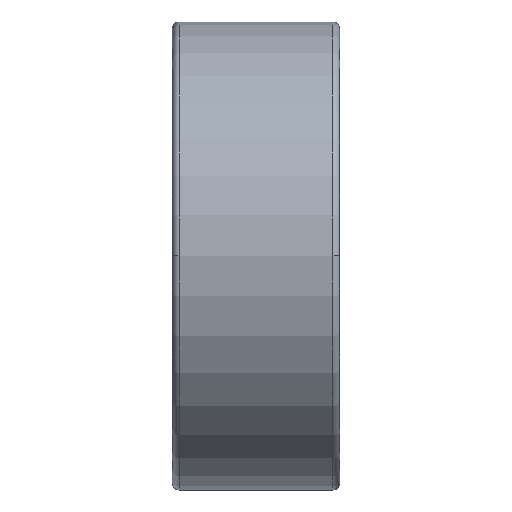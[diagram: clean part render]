
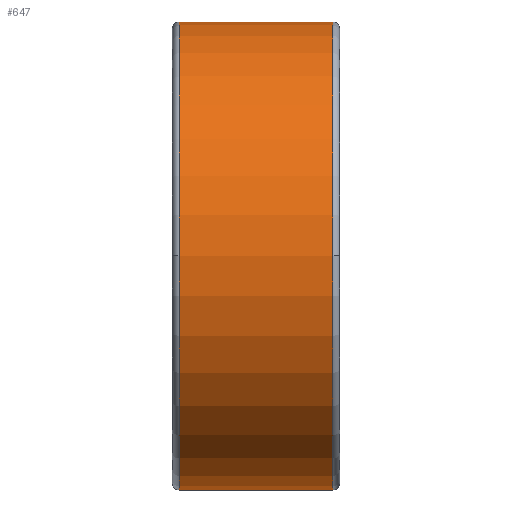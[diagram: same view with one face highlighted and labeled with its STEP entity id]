
A CAD part, top view. The second image highlights one B-rep face of the part: STEP entity #647.
In plain terms, the highlighted cylindrical face has radius 7 mm (diameter 14 mm), a partial arc.
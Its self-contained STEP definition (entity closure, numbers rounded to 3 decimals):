
#552=CARTESIAN_POINT('',(4.8,7.,0.0));
#553=VERTEX_POINT('',#552);
#561=CARTESIAN_POINT('',(4.8,0.,7.));
#562=VERTEX_POINT('',#561);
#563=CARTESIAN_POINT('',(4.8,0.0,0.0));
#564=DIRECTION('',(1.0,0.0,0.0));
#565=DIRECTION('',(0.0,1.0,0.0));
#566=AXIS2_PLACEMENT_3D('',#563,#564,#565);
#567=CIRCLE('',#566,7.);
#568=EDGE_CURVE('',#553,#562,#567,.T.);
#598=CARTESIAN_POINT('',(2.5,0.0,0.0));
#599=DIRECTION('',(1.0,0.0,0.0));
#600=DIRECTION('',(0.0,1.0,0.0));
#601=AXIS2_PLACEMENT_3D('',#598,#599,#600);
#602=CYLINDRICAL_SURFACE('',#601,7.);
#603=CARTESIAN_POINT('',(0.2,7.,0.0));
#604=VERTEX_POINT('',#603);
#605=CARTESIAN_POINT('',(0.2,7.,0.0));
#606=DIRECTION('',(1.0,0.0,0.0));
#607=VECTOR('',#606,4.6);
#608=LINE('',#605,#607);
#609=EDGE_CURVE('',#604,#553,#608,.T.);
#610=ORIENTED_EDGE('',*,*,#609,.F.);
#611=CARTESIAN_POINT('',(0.2,0.,7.));
#612=VERTEX_POINT('',#611);
#613=CARTESIAN_POINT('',(0.2,0.0,0.0));
#614=DIRECTION('',(1.0,0.0,0.0));
#615=DIRECTION('',(0.0,1.0,0.0));
#616=AXIS2_PLACEMENT_3D('',#613,#614,#615);
#617=CIRCLE('',#616,7.);
#618=EDGE_CURVE('',#604,#612,#617,.T.);
#619=ORIENTED_EDGE('',*,*,#618,.T.);
#620=CARTESIAN_POINT('',(0.2,-7.,0.));
#621=VERTEX_POINT('',#620);
#622=CARTESIAN_POINT('',(0.2,0.0,0.0));
#623=DIRECTION('',(1.0,0.0,0.0));
#624=DIRECTION('',(0.0,1.0,0.0));
#625=AXIS2_PLACEMENT_3D('',#622,#623,#624);
#626=CIRCLE('',#625,7.);
#627=EDGE_CURVE('',#612,#621,#626,.T.);
#628=ORIENTED_EDGE('',*,*,#627,.T.);
#629=CARTESIAN_POINT('',(4.8,-7.,0.));
#630=VERTEX_POINT('',#629);
#631=CARTESIAN_POINT('',(4.8,-7.,0.));
#632=DIRECTION('',(-1.0,0.0,0.0));
#633=VECTOR('',#632,4.6);
#634=LINE('',#631,#633);
#635=EDGE_CURVE('',#630,#621,#634,.T.);
#636=ORIENTED_EDGE('',*,*,#635,.F.);
#637=CARTESIAN_POINT('',(4.8,0.0,0.0));
#638=DIRECTION('',(1.0,0.0,0.0));
#639=DIRECTION('',(0.0,1.0,0.0));
#640=AXIS2_PLACEMENT_3D('',#637,#638,#639);
#641=CIRCLE('',#640,7.);
#642=EDGE_CURVE('',#562,#630,#641,.T.);
#643=ORIENTED_EDGE('',*,*,#642,.F.);
#644=ORIENTED_EDGE('',*,*,#568,.F.);
#645=EDGE_LOOP('',(#610,#619,#628,#636,#643,#644));
#646=FACE_OUTER_BOUND('',#645,.T.);
#647=ADVANCED_FACE('',(#646),#602,.T.);
